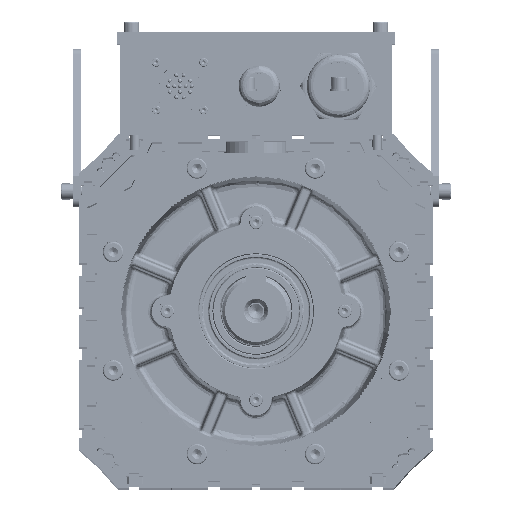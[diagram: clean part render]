
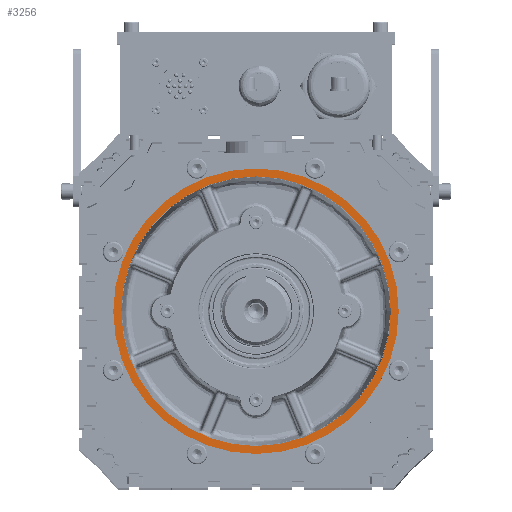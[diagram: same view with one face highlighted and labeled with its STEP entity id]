
A CAD part, top view. The second image highlights one B-rep face of the part: STEP entity #3256.
In plain terms, the highlighted planar face has unit normal (0, 0, 1) as drawn and (0, 0, -1) by its records, which use the part's own axes.
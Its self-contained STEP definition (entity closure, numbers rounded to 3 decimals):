
#3256 = ADVANCED_FACE ( 'NONE', ( #112222, #139558 ), #61458, .F. ) ;
#7367 = DIRECTION ( 'NONE',  ( 1., 0., 0. ) ) ;
#12260 = VERTEX_POINT ( 'NONE', #135201 ) ;
#13177 = CARTESIAN_POINT ( 'NONE',  ( -28.364, -25.305, 205. ) ) ;
#13657 = VERTEX_POINT ( 'NONE', #17292 ) ;
#17292 = CARTESIAN_POINT ( 'NONE',  ( -118.364, -25.305, 205. ) ) ;
#34269 = CIRCLE ( 'NONE', #135266, 85. ) ;
#35991 = CARTESIAN_POINT ( 'NONE',  ( -28.364, -115.305, 205. ) ) ;
#49735 = CARTESIAN_POINT ( 'NONE',  ( -28.364, -25.305, 205. ) ) ;
#59651 = CARTESIAN_POINT ( 'NONE',  ( -28.364, -25.305, 205. ) ) ;
#60619 = ORIENTED_EDGE ( 'NONE', *, *, #136186, .F. ) ;
#61458 = PLANE ( 'NONE',  #105999 ) ;
#62716 = ORIENTED_EDGE ( 'NONE', *, *, #103104, .F. ) ;
#66232 = CARTESIAN_POINT ( 'NONE',  ( 56.636, -25.305, 205. ) ) ;
#70437 = DIRECTION ( 'NONE',  ( 0., 0., 1. ) ) ;
#80034 = CIRCLE ( 'NONE', #171799, 90. ) ;
#82203 = AXIS2_PLACEMENT_3D ( 'NONE', #49735, #107768, #167503 ) ;
#90651 = CARTESIAN_POINT ( 'NONE',  ( -28.364, -25.305, 205. ) ) ;
#101789 = DIRECTION ( 'NONE',  ( -1., 0., 0. ) ) ;
#101953 = EDGE_CURVE ( 'NONE', #164490, #13657, #80034, .T. ) ;
#103104 = EDGE_CURVE ( 'NONE', #12260, #162463, #34269, .T. ) ;
#105999 = AXIS2_PLACEMENT_3D ( 'NONE', #35991, #137844, #7367 ) ;
#107768 = DIRECTION ( 'NONE',  ( 0., 0., -1. ) ) ;
#112222 = FACE_OUTER_BOUND ( 'NONE', #154160, .T. ) ;
#115634 = CIRCLE ( 'NONE', #82203, 85. ) ;
#129061 = DIRECTION ( 'NONE',  ( -1., 0., 0. ) ) ;
#133861 = DIRECTION ( 'NONE',  ( -1., 0., 0. ) ) ;
#133988 = AXIS2_PLACEMENT_3D ( 'NONE', #59651, #159655, #101789 ) ;
#135137 = DIRECTION ( 'NONE',  ( 0., 0., -1. ) ) ;
#135201 = CARTESIAN_POINT ( 'NONE',  ( -113.364, -25.305, 205. ) ) ;
#135266 = AXIS2_PLACEMENT_3D ( 'NONE', #90651, #135137, #133861 ) ;
#136186 = EDGE_CURVE ( 'NONE', #13657, #164490, #167873, .T. ) ;
#137844 = DIRECTION ( 'NONE',  ( 0., 0., 1. ) ) ;
#139558 = FACE_BOUND ( 'NONE', #181148, .T. ) ;
#143336 = ORIENTED_EDGE ( 'NONE', *, *, #101953, .F. ) ;
#147917 = EDGE_CURVE ( 'NONE', #162463, #12260, #115634, .T. ) ;
#149517 = ORIENTED_EDGE ( 'NONE', *, *, #147917, .F. ) ;
#154160 = EDGE_LOOP ( 'NONE', ( #60619, #143336 ) ) ;
#159655 = DIRECTION ( 'NONE',  ( 0., 0., 1. ) ) ;
#162463 = VERTEX_POINT ( 'NONE', #66232 ) ;
#164490 = VERTEX_POINT ( 'NONE', #167740 ) ;
#167503 = DIRECTION ( 'NONE',  ( -1., 0., 0. ) ) ;
#167740 = CARTESIAN_POINT ( 'NONE',  ( 61.636, -25.305, 205. ) ) ;
#167873 = CIRCLE ( 'NONE', #133988, 90. ) ;
#171799 = AXIS2_PLACEMENT_3D ( 'NONE', #13177, #70437, #129061 ) ;
#181148 = EDGE_LOOP ( 'NONE', ( #62716, #149517 ) ) ;
